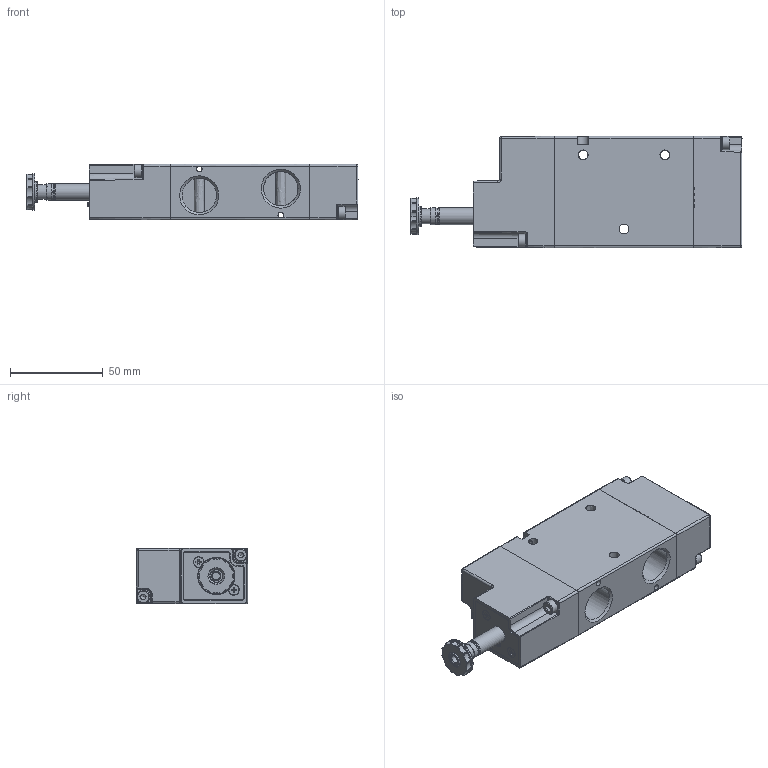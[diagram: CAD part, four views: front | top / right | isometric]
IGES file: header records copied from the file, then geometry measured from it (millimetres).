
Start section: SolidWorks IGES file using analytic representation for surfaces
Global section: file name: K:\Disegni Esecutivi\Elettrovalvole\ASSIEMI_IGS\01VS03NC05A.IGS; native system: SolidWorks 2012; preprocessor: SolidWorks 2012; author: cad05; date: 130902.182949; units: millimetre
Bounding box: 179 x 60 x 30 mm (x, y, z)
Surface area: 39835.1 mm2 (no closed solid volume)
Topology: 0 solids, 0 shells, 512 faces, 3272 edges, 3166 vertices
Faces by surface type: revolution 266, bspline 246
